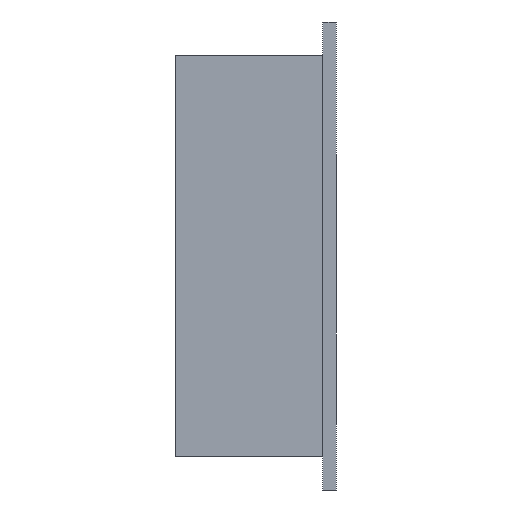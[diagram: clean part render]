
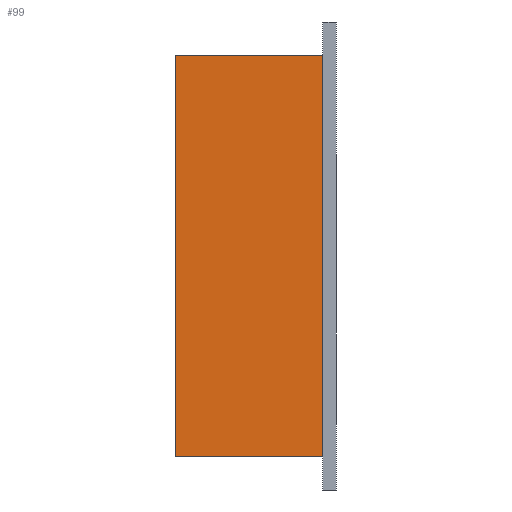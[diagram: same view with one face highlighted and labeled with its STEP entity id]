
A CAD part, left-side view. The second image highlights one B-rep face of the part: STEP entity #99.
In plain terms, the highlighted planar face has unit normal (-1, 0, 0).
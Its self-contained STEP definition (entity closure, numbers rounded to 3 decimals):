
#99 = ADVANCED_FACE( '', ( #152 ), #153, .T. );
#152 = FACE_OUTER_BOUND( '', #208, .T. );
#153 = PLANE( '', #209 );
#208 = EDGE_LOOP( '', ( #394, #395, #396, #397 ) );
#209 = AXIS2_PLACEMENT_3D( '', #398, #399, #400 );
#394 = ORIENTED_EDGE( '', *, *, #445, .T. );
#395 = ORIENTED_EDGE( '', *, *, #466, .F. );
#396 = ORIENTED_EDGE( '', *, *, #471, .F. );
#397 = ORIENTED_EDGE( '', *, *, #469, .T. );
#398 = CARTESIAN_POINT( '', ( -5.5, 0., -15. ) );
#399 = DIRECTION( '', ( -1., 0., 0. ) );
#400 = DIRECTION( '', ( 0., 0., -1. ) );
#445 = EDGE_CURVE( '', #531, #528, #532, .T. );
#466 = EDGE_CURVE( '', #562, #528, #564, .T. );
#469 = EDGE_CURVE( '', #568, #531, #569, .T. );
#471 = EDGE_CURVE( '', #568, #562, #571, .T. );
#528 = VERTEX_POINT( '', #652 );
#531 = VERTEX_POINT( '', #656 );
#532 = LINE( '', #657, #658 );
#562 = VERTEX_POINT( '', #707 );
#564 = LINE( '', #710, #711 );
#568 = VERTEX_POINT( '', #717 );
#569 = LINE( '', #718, #719 );
#571 = LINE( '', #722, #723 );
#652 = CARTESIAN_POINT( '', ( -5.5, -11., 15. ) );
#656 = CARTESIAN_POINT( '', ( -5.5, -11., -15. ) );
#657 = CARTESIAN_POINT( '', ( -5.5, -11., -15. ) );
#658 = VECTOR( '', #773, 1. );
#707 = CARTESIAN_POINT( '', ( -5.5, 0., 15. ) );
#710 = CARTESIAN_POINT( '', ( -5.5, 0., 15. ) );
#711 = VECTOR( '', #794, 1. );
#717 = CARTESIAN_POINT( '', ( -5.5, 0., -15. ) );
#718 = CARTESIAN_POINT( '', ( -5.5, 0., -15. ) );
#719 = VECTOR( '', #797, 1. );
#722 = CARTESIAN_POINT( '', ( -5.5, 0., -15. ) );
#723 = VECTOR( '', #799, 1. );
#773 = DIRECTION( '', ( 0., 0., 1. ) );
#794 = DIRECTION( '', ( 0., -1., 0. ) );
#797 = DIRECTION( '', ( 0., -1., 0. ) );
#799 = DIRECTION( '', ( 0., 0., 1. ) );
